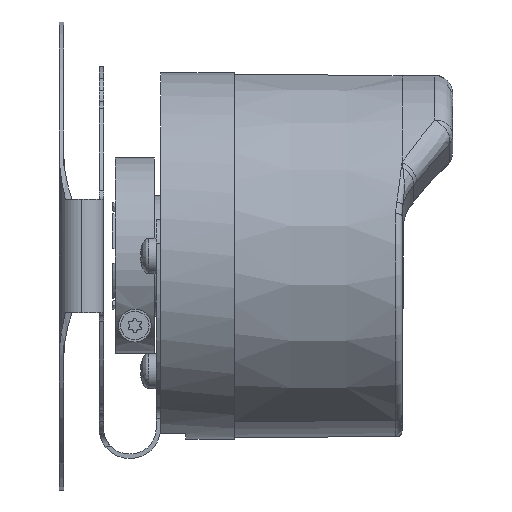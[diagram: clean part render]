
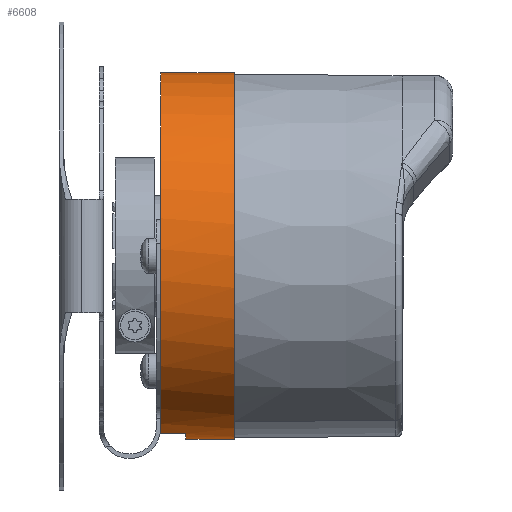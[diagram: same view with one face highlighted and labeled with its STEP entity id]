
A CAD part, front view. The second image highlights one B-rep face of the part: STEP entity #6608.
In plain terms, the highlighted cylindrical face has radius 29 mm (diameter 58 mm), a partial arc.
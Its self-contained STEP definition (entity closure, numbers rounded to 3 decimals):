
#387 = CARTESIAN_POINT ( 'NONE',  ( 0.378, 18.423, -28.142 ) ) ;
#445 = EDGE_LOOP ( 'NONE', ( #15921, #7732, #15061, #4674, #17679, #17336 ) ) ;
#2374 = CIRCLE ( 'NONE', #17999, 29. ) ;
#2665 = VERTEX_POINT ( 'NONE', #3269 ) ;
#2946 = DIRECTION ( 'NONE',  ( -1., 0., 0. ) ) ;
#3269 = CARTESIAN_POINT ( 'NONE',  ( -3.622, 18.423, -28.142 ) ) ;
#3350 = CARTESIAN_POINT ( 'NONE',  ( 8.068, 25.423, -29. ) ) ;
#4297 = CARTESIAN_POINT ( 'NONE',  ( 0.378, 25.423, -29. ) ) ;
#4323 = CARTESIAN_POINT ( 'NONE',  ( 8.068, 18.423, -28.142 ) ) ;
#4518 = VERTEX_POINT ( 'NONE', #387 ) ;
#4674 = ORIENTED_EDGE ( 'NONE', *, *, #7349, .T. ) ;
#4853 = DIRECTION ( 'NONE',  ( 0., 0., -1. ) ) ;
#4859 = VERTEX_POINT ( 'NONE', #13402 ) ;
#5388 = DIRECTION ( 'NONE',  ( 1., 0., 0. ) ) ;
#5631 = CARTESIAN_POINT ( 'NONE',  ( 8.068, 25.423, 0. ) ) ;
#6288 = FACE_OUTER_BOUND ( 'NONE', #445, .T. ) ;
#6381 = EDGE_CURVE ( 'NONE', #13860, #2665, #12385, .T. ) ;
#6454 = CARTESIAN_POINT ( 'NONE',  ( -3.622, 25.423, 0. ) ) ;
#6512 = DIRECTION ( 'NONE',  ( 0., 0., -1. ) ) ;
#6608 = ADVANCED_FACE ( 'NONE', ( #6288 ), #13320, .T. ) ;
#7132 = EDGE_CURVE ( 'NONE', #4518, #2665, #9744, .T. ) ;
#7330 = DIRECTION ( 'NONE',  ( 0., 0., -1. ) ) ;
#7349 = EDGE_CURVE ( 'NONE', #4518, #9004, #2374, .T. ) ;
#7732 = ORIENTED_EDGE ( 'NONE', *, *, #6381, .T. ) ;
#8561 = DIRECTION ( 'NONE',  ( 1., 0., 0. ) ) ;
#9004 = VERTEX_POINT ( 'NONE', #4297 ) ;
#9676 = VECTOR ( 'NONE', #8561, 1000. ) ;
#9744 = LINE ( 'NONE', #4323, #13709 ) ;
#11424 = DIRECTION ( 'NONE',  ( 1., 0., 0. ) ) ;
#11878 = AXIS2_PLACEMENT_3D ( 'NONE', #5631, #18043, #7330 ) ;
#11975 = LINE ( 'NONE', #3350, #9676 ) ;
#12184 = EDGE_CURVE ( 'NONE', #13860, #22151, #16235, .T. ) ;
#12385 = CIRCLE ( 'NONE', #21542, 29. ) ;
#13089 = CARTESIAN_POINT ( 'NONE',  ( -3.622, 25.423, 29. ) ) ;
#13320 = CYLINDRICAL_SURFACE ( 'NONE', #19360, 29. ) ;
#13402 = CARTESIAN_POINT ( 'NONE',  ( 8.068, 25.423, -29. ) ) ;
#13709 = VECTOR ( 'NONE', #2946, 1000. ) ;
#13860 = VERTEX_POINT ( 'NONE', #13089 ) ;
#14427 = CIRCLE ( 'NONE', #11878, 29. ) ;
#14617 = DIRECTION ( 'NONE',  ( 1., 0., 0. ) ) ;
#14847 = CARTESIAN_POINT ( 'NONE',  ( 8.068, 25.423, 29. ) ) ;
#15061 = ORIENTED_EDGE ( 'NONE', *, *, #7132, .F. ) ;
#15921 = ORIENTED_EDGE ( 'NONE', *, *, #12184, .F. ) ;
#16235 = LINE ( 'NONE', #14847, #18295 ) ;
#16343 = DIRECTION ( 'NONE',  ( 0., 0., 1. ) ) ;
#16537 = DIRECTION ( 'NONE',  ( 1., 0., 0. ) ) ;
#17187 = EDGE_CURVE ( 'NONE', #9004, #4859, #11975, .T. ) ;
#17336 = ORIENTED_EDGE ( 'NONE', *, *, #19844, .F. ) ;
#17646 = CARTESIAN_POINT ( 'NONE',  ( 8.068, 25.423, 29. ) ) ;
#17679 = ORIENTED_EDGE ( 'NONE', *, *, #17187, .T. ) ;
#17999 = AXIS2_PLACEMENT_3D ( 'NONE', #20129, #11424, #16343 ) ;
#18043 = DIRECTION ( 'NONE',  ( 1., 0., 0. ) ) ;
#18295 = VECTOR ( 'NONE', #14617, 1000. ) ;
#18599 = CARTESIAN_POINT ( 'NONE',  ( 8.068, 25.423, 0. ) ) ;
#19360 = AXIS2_PLACEMENT_3D ( 'NONE', #18599, #16537, #6512 ) ;
#19844 = EDGE_CURVE ( 'NONE', #22151, #4859, #14427, .T. ) ;
#20129 = CARTESIAN_POINT ( 'NONE',  ( 0.378, 25.423, 0. ) ) ;
#21542 = AXIS2_PLACEMENT_3D ( 'NONE', #6454, #5388, #4853 ) ;
#22151 = VERTEX_POINT ( 'NONE', #17646 ) ;
